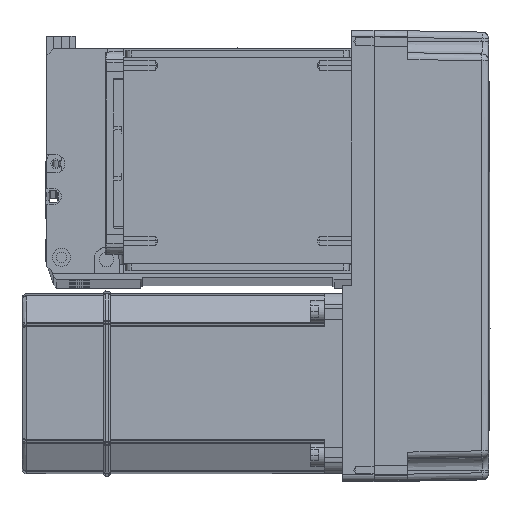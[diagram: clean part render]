
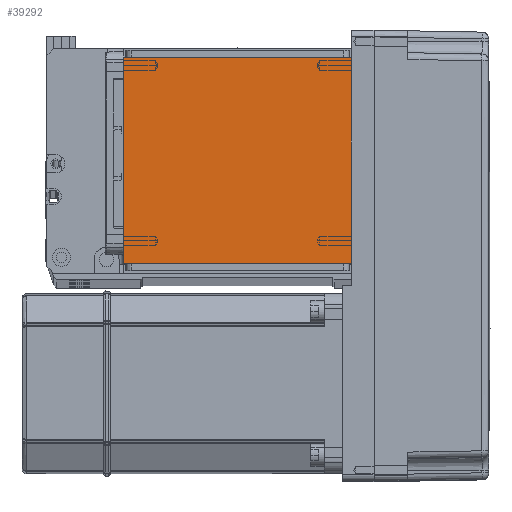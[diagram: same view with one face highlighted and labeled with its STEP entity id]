
A CAD part, top view. The second image highlights one B-rep face of the part: STEP entity #39292.
In plain terms, the highlighted planar face has unit normal (0, 0, 1).
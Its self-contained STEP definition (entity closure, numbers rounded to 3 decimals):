
#4669 = CARTESIAN_POINT ( 'NONE',  ( 50.5, 111.5, 115. ) ) ;
#5549 = LINE ( 'NONE', #23760, #21212 ) ;
#8490 = DIRECTION ( 'NONE',  ( 0., -1., 0. ) ) ;
#11108 = CARTESIAN_POINT ( 'NONE',  ( -50.5, 20., 115. ) ) ;
#16685 = DIRECTION ( 'NONE',  ( 0., 1., 0. ) ) ;
#19703 = LINE ( 'NONE', #35110, #49584 ) ;
#21212 = VECTOR ( 'NONE', #8490, 1000. ) ;
#21623 = CARTESIAN_POINT ( 'NONE',  ( 0., 0., 115. ) ) ;
#22498 = VERTEX_POINT ( 'NONE', #11108 ) ;
#23760 = CARTESIAN_POINT ( 'NONE',  ( -50.5, 122., 115. ) ) ;
#24391 = LINE ( 'NONE', #58800, #60979 ) ;
#25889 = VERTEX_POINT ( 'NONE', #59803 ) ;
#28303 = LINE ( 'NONE', #41169, #60389 ) ;
#29459 = VERTEX_POINT ( 'NONE', #42542 ) ;
#31038 = EDGE_CURVE ( 'NONE', #25889, #35655, #24391, .T. ) ;
#33840 = EDGE_CURVE ( 'NONE', #25889, #22498, #5549, .T. ) ;
#35110 = CARTESIAN_POINT ( 'NONE',  ( -70.004, 20., 115. ) ) ;
#35655 = VERTEX_POINT ( 'NONE', #4669 ) ;
#39292 = ADVANCED_FACE ( 'NONE', ( #51444 ), #45698, .T. ) ;
#41169 = CARTESIAN_POINT ( 'NONE',  ( 50.5, 122., 115. ) ) ;
#41912 = ORIENTED_EDGE ( 'NONE', *, *, #58502, .F. ) ;
#42542 = CARTESIAN_POINT ( 'NONE',  ( 50.5, 20., 115. ) ) ;
#45698 = PLANE ( 'NONE',  #51998 ) ;
#45736 = EDGE_LOOP ( 'NONE', ( #48622, #53383, #41912, #59153 ) ) ;
#48622 = ORIENTED_EDGE ( 'NONE', *, *, #31038, .F. ) ;
#49300 = DIRECTION ( 'NONE',  ( -1., 0., 0. ) ) ;
#49584 = VECTOR ( 'NONE', #49300, 1000. ) ;
#50510 = DIRECTION ( 'NONE',  ( 0., 0., 1. ) ) ;
#51444 = FACE_OUTER_BOUND ( 'NONE', #45736, .T. ) ;
#51998 = AXIS2_PLACEMENT_3D ( 'NONE', #21623, #50510, #59853 ) ;
#53383 = ORIENTED_EDGE ( 'NONE', *, *, #33840, .T. ) ;
#54236 = EDGE_CURVE ( 'NONE', #29459, #35655, #28303, .T. ) ;
#58502 = EDGE_CURVE ( 'NONE', #29459, #22498, #19703, .T. ) ;
#58589 = DIRECTION ( 'NONE',  ( 1., 0., 0. ) ) ;
#58800 = CARTESIAN_POINT ( 'NONE',  ( -70.004, 111.5, 115. ) ) ;
#59153 = ORIENTED_EDGE ( 'NONE', *, *, #54236, .T. ) ;
#59803 = CARTESIAN_POINT ( 'NONE',  ( -50.5, 111.5, 115. ) ) ;
#59853 = DIRECTION ( 'NONE',  ( 1., 0., 0. ) ) ;
#60389 = VECTOR ( 'NONE', #16685, 1000. ) ;
#60979 = VECTOR ( 'NONE', #58589, 1000. ) ;
